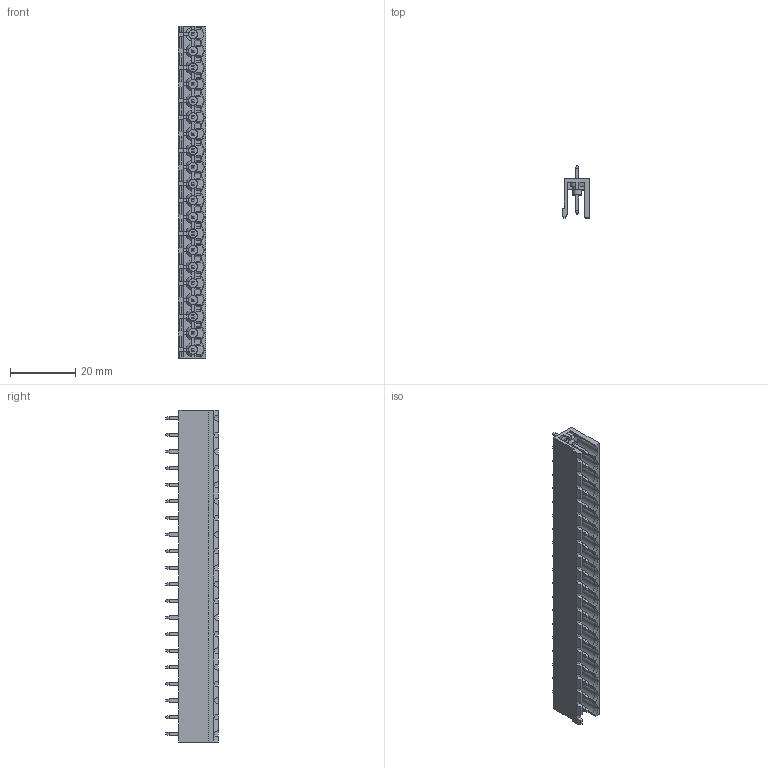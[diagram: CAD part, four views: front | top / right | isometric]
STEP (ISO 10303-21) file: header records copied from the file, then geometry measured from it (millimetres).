
FILE_DESCRIPTION (( 'STEP AP203' ), '1' );
FILE_NAME ('BR8MC1-20.STEP', '2020-03-18T03:07:31', ( '' ), ( '' ), 'SwSTEP 2.0', 'SolidWorks 2019', '' );
FILE_SCHEMA (( 'CONFIG_CONTROL_DESIGN' ));
Length unit declared in the file: millimetre
Products named in the file (1): BR8MC1-20
Bounding box: 8.5 x 16.03 x 101.6 mm (x, y, z)
Volume: 3847.2 mm3; surface area: 8503.5 mm2
Topology: 1 solids, 1 shells, 1679 faces, 4374 edges, 2697 vertices
Faces by surface type: plane 1441, cylinder 101, cone 97, sphere 40
Entity records: 49868 total; most frequent: CARTESIAN_POINT 9536, ORIENTED_EDGE 8588, DIRECTION 7861, EDGE_CURVE 4294, LINE 3661, VECTOR 3661, VERTEX_POINT 2657, AXIS2_PLACEMENT_3D 2100
